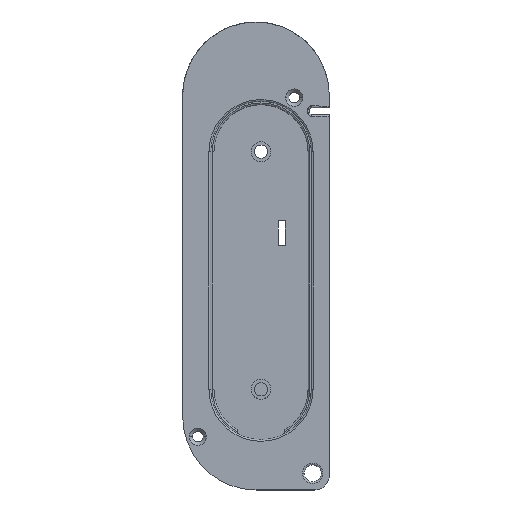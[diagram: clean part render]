
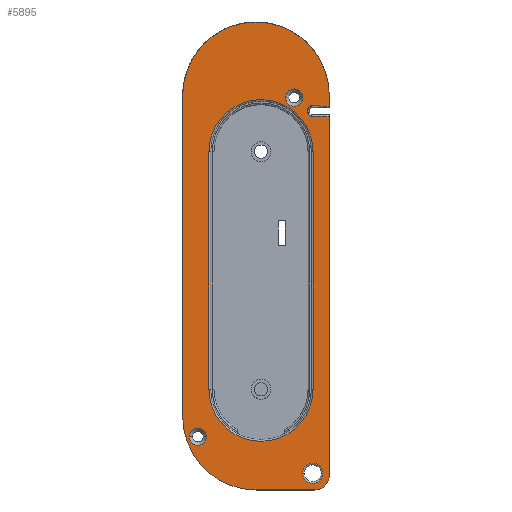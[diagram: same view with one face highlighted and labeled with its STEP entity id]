
A CAD part, top view. The second image highlights one B-rep face of the part: STEP entity #5895.
In plain terms, the highlighted planar face has unit normal (0, 0, 1).
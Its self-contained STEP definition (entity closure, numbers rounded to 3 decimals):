
#86=DIRECTION('',(0.,-1.,0.));
#87=VECTOR('',#86,71.5);
#88=CARTESIAN_POINT('',(15.65,35.75,10.3));
#89=LINE('',#88,#87);
#90=CARTESIAN_POINT('',(0.,35.75,10.3));
#91=DIRECTION('',(0.,0.,-1.));
#92=DIRECTION('',(-1.,0.,0.));
#93=AXIS2_PLACEMENT_3D('',#90,#91,#92);
#95=DIRECTION('',(0.,1.,0.));
#96=VECTOR('',#95,71.5);
#97=CARTESIAN_POINT('',(-15.65,-35.75,10.3));
#98=LINE('',#97,#96);
#99=CARTESIAN_POINT('',(0.,-35.75,10.3));
#100=DIRECTION('',(0.,0.,-1.));
#101=DIRECTION('',(1.,0.,0.));
#102=AXIS2_PLACEMENT_3D('',#99,#100,#101);
#104=CARTESIAN_POINT('',(15.55,-61.05,10.3));
#105=DIRECTION('',(0.,0.,-1.));
#106=DIRECTION('',(-1.,0.,0.));
#107=AXIS2_PLACEMENT_3D('',#104,#105,#106);
#109=CARTESIAN_POINT('',(15.55,-61.05,10.3));
#110=DIRECTION('',(0.,0.,-1.));
#111=DIRECTION('',(1.,0.,0.));
#112=AXIS2_PLACEMENT_3D('',#109,#110,#111);
#114=CARTESIAN_POINT('',(-19.,-50.,10.3));
#115=DIRECTION('',(0.,0.,-1.));
#116=DIRECTION('',(1.,0.,0.));
#117=AXIS2_PLACEMENT_3D('',#114,#115,#116);
#119=CARTESIAN_POINT('',(-19.,-50.,10.3));
#120=DIRECTION('',(0.,0.,-1.));
#121=DIRECTION('',(-1.,0.,0.));
#122=AXIS2_PLACEMENT_3D('',#119,#120,#121);
#124=CARTESIAN_POINT('',(10.,52.,10.3));
#125=DIRECTION('',(0.,0.,-1.));
#126=DIRECTION('',(-1.,0.,0.));
#127=AXIS2_PLACEMENT_3D('',#124,#125,#126);
#129=CARTESIAN_POINT('',(10.,52.,10.3));
#130=DIRECTION('',(0.,0.,-1.));
#131=DIRECTION('',(1.,0.,0.));
#132=AXIS2_PLACEMENT_3D('',#129,#130,#131);
#134=CARTESIAN_POINT('',(15.55,-61.05,10.3));
#135=DIRECTION('',(0.,0.,-1.));
#136=DIRECTION('',(-0.004,1.,0.));
#137=AXIS2_PLACEMENT_3D('',#134,#135,#136);
#139=CARTESIAN_POINT('',(15.15,48.449,10.3));
#140=DIRECTION('',(0.,0.,-1.));
#141=DIRECTION('',(-1.,0.,0.));
#142=AXIS2_PLACEMENT_3D('',#139,#140,#141);
#144=DIRECTION('',(0.,1.,0.));
#145=VECTOR('',#144,1.);
#146=CARTESIAN_POINT('',(14.1,47.449,10.3));
#147=LINE('',#146,#145);
#148=CARTESIAN_POINT('',(15.15,47.449,10.3));
#149=DIRECTION('',(0.,0.,-1.));
#150=DIRECTION('',(0.004,-1.,0.));
#151=AXIS2_PLACEMENT_3D('',#148,#149,#150);
#153=CARTESIAN_POINT('',(15.55,-61.05,10.3));
#154=DIRECTION('',(0.,0.,1.));
#155=DIRECTION('',(0.047,0.999,0.));
#156=AXIS2_PLACEMENT_3D('',#153,#154,#155);
#158=DIRECTION('',(0.,1.,0.));
#159=VECTOR('',#158,107.934);
#160=CARTESIAN_POINT('',(20.55,-61.65,10.3));
#161=LINE('',#160,#159);
#162=CARTESIAN_POINT('',(16.15,-61.65,10.3));
#163=DIRECTION('',(0.,0.,1.));
#164=DIRECTION('',(0.,-1.,0.));
#165=AXIS2_PLACEMENT_3D('',#162,#163,#164);
#167=DIRECTION('',(1.,0.,0.));
#168=VECTOR('',#167,17.65);
#169=CARTESIAN_POINT('',(-1.5,-66.05,10.3));
#170=LINE('',#169,#168);
#171=CARTESIAN_POINT('',(-1.5,-44.,10.3));
#172=DIRECTION('',(0.,0.,1.));
#173=DIRECTION('',(-1.,0.,0.));
#174=AXIS2_PLACEMENT_3D('',#171,#172,#173);
#176=DIRECTION('',(0.,-1.,0.));
#177=VECTOR('',#176,96.7);
#178=CARTESIAN_POINT('',(-23.55,52.7,10.3));
#179=LINE('',#178,#177);
#180=CARTESIAN_POINT('',(-1.5,52.7,10.3));
#181=DIRECTION('',(0.,0.,1.));
#182=DIRECTION('',(1.,0.,0.));
#183=AXIS2_PLACEMENT_3D('',#180,#181,#182);
#185=DIRECTION('',(0.,1.,0.));
#186=VECTOR('',#185,3.313);
#187=CARTESIAN_POINT('',(20.55,49.387,10.3));
#188=LINE('',#187,#186);
#2530=CARTESIAN_POINT('',(20.55,49.387,10.3));
#2552=CARTESIAN_POINT('',(20.55,46.284,10.3));
#4892=CARTESIAN_POINT('',(20.55,52.7,10.3));
#4893=CARTESIAN_POINT('',(-23.55,52.7,10.3));
#4894=VERTEX_POINT('',#4892);
#4895=VERTEX_POINT('',#4893);
#4896=CARTESIAN_POINT('',(-23.55,-44.,10.3));
#4897=VERTEX_POINT('',#4896);
#4898=CARTESIAN_POINT('',(-1.5,-66.05,10.3));
#4899=VERTEX_POINT('',#4898);
#4952=CARTESIAN_POINT('',(15.65,35.75,10.3));
#4953=CARTESIAN_POINT('',(15.65,-35.75,10.3));
#4954=VERTEX_POINT('',#4952);
#4955=VERTEX_POINT('',#4953);
#4960=CARTESIAN_POINT('',(-15.65,-35.75,10.3));
#4961=VERTEX_POINT('',#4960);
#4964=CARTESIAN_POINT('',(-15.65,35.75,10.3));
#4965=VERTEX_POINT('',#4964);
#5000=CARTESIAN_POINT('',(16.15,-66.05,10.3));
#5001=VERTEX_POINT('',#5000);
#5002=CARTESIAN_POINT('',(20.55,-61.65,10.3));
#5003=VERTEX_POINT('',#5002);
#5670=CARTESIAN_POINT('',(12.5,-61.05,10.3));
#5671=CARTESIAN_POINT('',(18.6,-61.05,10.3));
#5672=VERTEX_POINT('',#5670);
#5673=VERTEX_POINT('',#5671);
#5686=CARTESIAN_POINT('',(-16.4,-50.,10.3));
#5687=CARTESIAN_POINT('',(-21.6,-50.,10.3));
#5688=VERTEX_POINT('',#5686);
#5689=VERTEX_POINT('',#5687);
#5694=CARTESIAN_POINT('',(7.4,52.,10.3));
#5695=CARTESIAN_POINT('',(12.6,52.,10.3));
#5696=VERTEX_POINT('',#5694);
#5697=VERTEX_POINT('',#5695);
#5716=VERTEX_POINT('',#2530);
#5720=CARTESIAN_POINT('',(15.146,49.499,10.3));
#5721=VERTEX_POINT('',#5720);
#5722=CARTESIAN_POINT('',(14.1,48.449,10.3));
#5723=VERTEX_POINT('',#5722);
#5726=CARTESIAN_POINT('',(14.1,47.449,10.3));
#5727=VERTEX_POINT('',#5726);
#5730=CARTESIAN_POINT('',(15.154,46.399,10.3));
#5731=VERTEX_POINT('',#5730);
#5735=VERTEX_POINT('',#2552);
#5837=CARTESIAN_POINT('',(0.,0.,10.3));
#5838=DIRECTION('',(0.,0.,1.));
#5839=DIRECTION('',(1.,0.,0.));
#5840=AXIS2_PLACEMENT_3D('',#5837,#5838,#5839);
#5841=PLANE('',#5840);
#5843=ORIENTED_EDGE('',*,*,#5842,.F.);
#5845=ORIENTED_EDGE('',*,*,#5844,.F.);
#5847=ORIENTED_EDGE('',*,*,#5846,.F.);
#5849=ORIENTED_EDGE('',*,*,#5848,.F.);
#5851=ORIENTED_EDGE('',*,*,#5850,.F.);
#5853=ORIENTED_EDGE('',*,*,#5852,.F.);
#5855=ORIENTED_EDGE('',*,*,#5854,.F.);
#5857=ORIENTED_EDGE('',*,*,#5856,.F.);
#5859=ORIENTED_EDGE('',*,*,#5858,.F.);
#5861=ORIENTED_EDGE('',*,*,#5860,.F.);
#5863=ORIENTED_EDGE('',*,*,#5862,.F.);
#5865=ORIENTED_EDGE('',*,*,#5864,.F.);
#5866=EDGE_LOOP('',(#5843,#5845,#5847,#5849,#5851,#5853,#5855,#5857,#5859,#5861,
#5863,#5865));
#5867=FACE_OUTER_BOUND('',#5866,.F.);
#5869=ORIENTED_EDGE('',*,*,#5868,.F.);
#5871=ORIENTED_EDGE('',*,*,#5870,.F.);
#5872=EDGE_LOOP('',(#5869,#5871));
#5873=FACE_BOUND('',#5872,.F.);
#5875=ORIENTED_EDGE('',*,*,#5874,.F.);
#5877=ORIENTED_EDGE('',*,*,#5876,.F.);
#5878=EDGE_LOOP('',(#5875,#5877));
#5879=FACE_BOUND('',#5878,.F.);
#5881=ORIENTED_EDGE('',*,*,#5880,.F.);
#5883=ORIENTED_EDGE('',*,*,#5882,.F.);
#5884=EDGE_LOOP('',(#5881,#5883));
#5885=FACE_BOUND('',#5884,.F.);
#5887=ORIENTED_EDGE('',*,*,#5886,.F.);
#5889=ORIENTED_EDGE('',*,*,#5888,.F.);
#5891=ORIENTED_EDGE('',*,*,#5890,.F.);
#5892=ORIENTED_EDGE('',*,*,#5827,.F.);
#5893=EDGE_LOOP('',(#5887,#5889,#5891,#5892));
#5894=FACE_BOUND('',#5893,.F.);
#5895=ADVANCED_FACE('',(#5867,#5873,#5879,#5885,#5894),#5841,.T.);
#94=CIRCLE('',#93,15.65);
#103=CIRCLE('',#102,15.65);
#108=CIRCLE('',#107,3.05);
#113=CIRCLE('',#112,3.05);
#118=CIRCLE('',#117,2.6);
#123=CIRCLE('',#122,2.6);
#128=CIRCLE('',#127,2.6);
#133=CIRCLE('',#132,2.6);
#138=CIRCLE('',#137,110.55);
#143=CIRCLE('',#142,1.05);
#152=CIRCLE('',#151,1.05);
#157=CIRCLE('',#156,107.45);
#166=CIRCLE('',#165,4.4);
#175=CIRCLE('',#174,22.05);
#184=CIRCLE('',#183,22.05);
#5827=EDGE_CURVE('',#4955,#4961,#103,.T.);
#5842=EDGE_CURVE('',#5721,#5716,#138,.T.);
#5844=EDGE_CURVE('',#5723,#5721,#143,.T.);
#5846=EDGE_CURVE('',#5727,#5723,#147,.T.);
#5848=EDGE_CURVE('',#5731,#5727,#152,.T.);
#5850=EDGE_CURVE('',#5735,#5731,#157,.T.);
#5852=EDGE_CURVE('',#5003,#5735,#161,.T.);
#5854=EDGE_CURVE('',#5001,#5003,#166,.T.);
#5856=EDGE_CURVE('',#4899,#5001,#170,.T.);
#5858=EDGE_CURVE('',#4897,#4899,#175,.T.);
#5860=EDGE_CURVE('',#4895,#4897,#179,.T.);
#5862=EDGE_CURVE('',#4894,#4895,#184,.T.);
#5864=EDGE_CURVE('',#5716,#4894,#188,.T.);
#5868=EDGE_CURVE('',#5672,#5673,#108,.T.);
#5870=EDGE_CURVE('',#5673,#5672,#113,.T.);
#5874=EDGE_CURVE('',#5688,#5689,#118,.T.);
#5876=EDGE_CURVE('',#5689,#5688,#123,.T.);
#5880=EDGE_CURVE('',#5696,#5697,#128,.T.);
#5882=EDGE_CURVE('',#5697,#5696,#133,.T.);
#5886=EDGE_CURVE('',#4954,#4955,#89,.T.);
#5888=EDGE_CURVE('',#4965,#4954,#94,.T.);
#5890=EDGE_CURVE('',#4961,#4965,#98,.T.);
